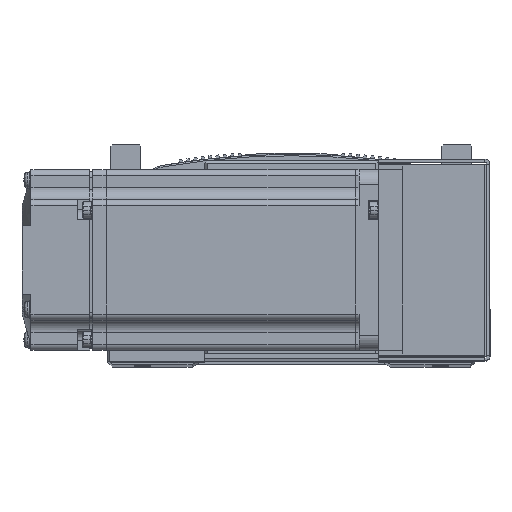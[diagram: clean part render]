
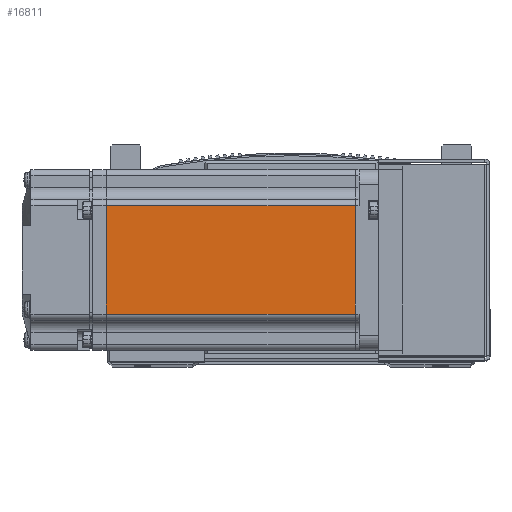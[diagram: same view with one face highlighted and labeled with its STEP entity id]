
A CAD part, top view. The second image highlights one B-rep face of the part: STEP entity #16811.
In plain terms, the highlighted planar face has unit normal (0, 0, 1) as drawn and (0, 1, 0) by its records, which use the part's own axes.
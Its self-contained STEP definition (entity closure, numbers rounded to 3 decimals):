
#4915 = CARTESIAN_POINT ( 'NONE',  ( -90.45, 30., 18. ) ) ;
#4952 = CARTESIAN_POINT ( 'NONE',  ( -7.75, 30., 18. ) ) ;
#5019 = CARTESIAN_POINT ( 'NONE',  ( -90.45, 30., -18. ) ) ;
#5148 = CARTESIAN_POINT ( 'NONE',  ( -7.75, 30., -18. ) ) ;
#11055 = LINE ( 'NONE', #40169, #11060 ) ;
#11060 = VECTOR ( 'NONE', #40148, 1000. ) ;
#11896 = VECTOR ( 'NONE', #40043, 1000. ) ;
#11920 = LINE ( 'NONE', #40047, #11896 ) ;
#15649 = VECTOR ( 'NONE', #39970, 1000. ) ;
#15718 = LINE ( 'NONE', #39956, #15649 ) ;
#16325 = LINE ( 'NONE', #40009, #16475 ) ;
#16475 = VECTOR ( 'NONE', #39981, 1000. ) ;
#16811 = ADVANCED_FACE ( 'NONE', ( #27008 ), #79601, .T. ) ;
#27008 = FACE_OUTER_BOUND ( 'NONE', #79817, .T. ) ;
#39956 = CARTESIAN_POINT ( 'NONE',  ( -6.5, 30., 18. ) ) ;
#39970 = DIRECTION ( 'NONE',  ( 1., 0., 0. ) ) ;
#39981 = DIRECTION ( 'NONE',  ( 0., 0., 1. ) ) ;
#40009 = CARTESIAN_POINT ( 'NONE',  ( -90.45, 30., 0. ) ) ;
#40043 = DIRECTION ( 'NONE',  ( -1., 0., 0. ) ) ;
#40047 = CARTESIAN_POINT ( 'NONE',  ( -6.5, 30., -18. ) ) ;
#40148 = DIRECTION ( 'NONE',  ( 0., 0., 1. ) ) ;
#40169 = CARTESIAN_POINT ( 'NONE',  ( -7.75, 30., 0. ) ) ;
#53106 = ORIENTED_EDGE ( 'NONE', *, *, #60007, .F. ) ;
#53133 = ORIENTED_EDGE ( 'NONE', *, *, #59932, .T. ) ;
#53138 = ORIENTED_EDGE ( 'NONE', *, *, #59943, .T. ) ;
#53170 = ORIENTED_EDGE ( 'NONE', *, *, #59952, .T. ) ;
#55401 = AXIS2_PLACEMENT_3D ( 'NONE', #79663, #79618, #79576 ) ;
#59932 = EDGE_CURVE ( 'NONE', #81300, #81245, #15718, .T. ) ;
#59943 = EDGE_CURVE ( 'NONE', #81399, #81300, #16325, .T. ) ;
#59952 = EDGE_CURVE ( 'NONE', #81540, #81399, #11920, .T. ) ;
#60007 = EDGE_CURVE ( 'NONE', #81540, #81245, #11055, .T. ) ;
#79576 = DIRECTION ( 'NONE',  ( 0., 0., 1. ) ) ;
#79601 = PLANE ( 'NONE',  #55401 ) ;
#79618 = DIRECTION ( 'NONE',  ( 0., 1., 0. ) ) ;
#79663 = CARTESIAN_POINT ( 'NONE',  ( -6.5, 30., 25. ) ) ;
#79817 = EDGE_LOOP ( 'NONE', ( #53106, #53170, #53138, #53133 ) ) ;
#81245 = VERTEX_POINT ( 'NONE', #4952 ) ;
#81300 = VERTEX_POINT ( 'NONE', #4915 ) ;
#81399 = VERTEX_POINT ( 'NONE', #5019 ) ;
#81540 = VERTEX_POINT ( 'NONE', #5148 ) ;
